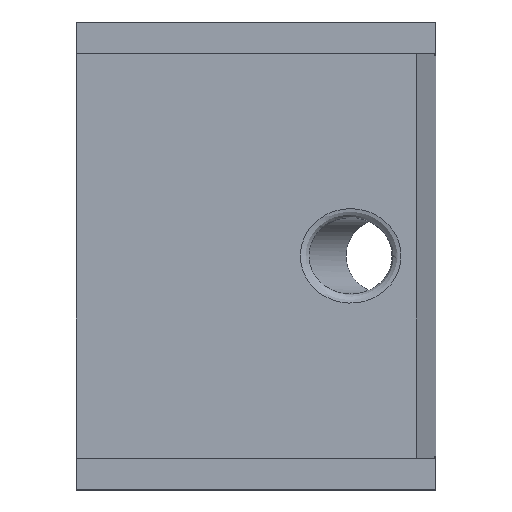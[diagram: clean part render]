
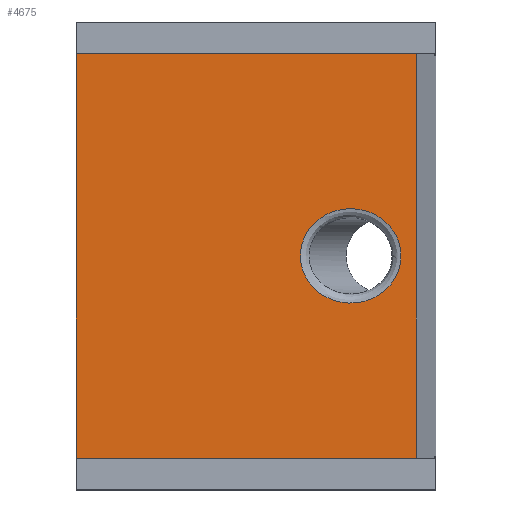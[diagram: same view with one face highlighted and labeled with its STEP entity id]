
A CAD part, top view. The second image highlights one B-rep face of the part: STEP entity #4675.
In plain terms, the highlighted planar face has unit normal (0, 0, 1).
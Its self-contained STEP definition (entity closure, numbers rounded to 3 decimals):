
#7 = LINE ( 'NONE', #4567, #5301 ) ;
#341 = CARTESIAN_POINT ( 'NONE',  ( 36.111, 10.5, 12. ) ) ;
#642 = DIRECTION ( 'NONE',  ( 0., -1., 0. ) ) ;
#704 = PLANE ( 'NONE',  #8969 ) ;
#938 = ORIENTED_EDGE ( 'NONE', *, *, #6987, .T. ) ;
#1512 = DIRECTION ( 'NONE',  ( -1., 0., 0. ) ) ;
#1530 = VECTOR ( 'NONE', #642, 1000. ) ;
#2386 = EDGE_LOOP ( 'NONE', ( #9019, #6944, #9219, #6426 ) ) ;
#2459 =( BOUNDED_CURVE ( )  B_SPLINE_CURVE ( 3, ( #5517, #3211, #6268, #3353, #3402, #341, #4060 ),
 .UNSPECIFIED., .T., .T. ) 
 B_SPLINE_CURVE_WITH_KNOTS ( ( 4, 3, 4 ),
 ( 0., 3.142, 6.283 ),
 .UNSPECIFIED. ) 
 CURVE ( )  GEOMETRIC_REPRESENTATION_ITEM ( )  RATIONAL_B_SPLINE_CURVE ( ( 1., 0.333, 0.333, 1., 0.333, 0.333, 1. ) ) 
 REPRESENTATION_ITEM ( '' )  );
#2612 = CARTESIAN_POINT ( 'NONE',  ( 0., -22.5, 12. ) ) ;
#2665 = CARTESIAN_POINT ( 'NONE',  ( 37.816, -22.5, 12. ) ) ;
#2695 = DIRECTION ( 'NONE',  ( 0., -1., 0. ) ) ;
#3069 = FACE_OUTER_BOUND ( 'NONE', #2386, .T. ) ;
#3211 = CARTESIAN_POINT ( 'NONE',  ( 36.111, -10.5, 12. ) ) ;
#3353 = CARTESIAN_POINT ( 'NONE',  ( 24.937, 0., 12. ) ) ;
#3382 = EDGE_LOOP ( 'NONE', ( #938 ) ) ;
#3402 = CARTESIAN_POINT ( 'NONE',  ( 24.937, 10.5, 12. ) ) ;
#4060 = CARTESIAN_POINT ( 'NONE',  ( 36.111, 0., 12. ) ) ;
#4331 = CARTESIAN_POINT ( 'NONE',  ( 0., 22.5, 12. ) ) ;
#4366 = LINE ( 'NONE', #9708, #4677 ) ;
#4464 = FACE_BOUND ( 'NONE', #3382, .T. ) ;
#4506 = CARTESIAN_POINT ( 'NONE',  ( 37.816, 22.5, 12. ) ) ;
#4567 = CARTESIAN_POINT ( 'NONE',  ( 0., 22.5, 12. ) ) ;
#4609 = CARTESIAN_POINT ( 'NONE',  ( 37.816, 22.5, 12. ) ) ;
#4631 = EDGE_CURVE ( 'NONE', #9217, #5783, #4366, .T. ) ;
#4675 = ADVANCED_FACE ( 'NONE', ( #4464, #3069 ), #704, .F. ) ;
#4677 = VECTOR ( 'NONE', #7414, 1000. ) ;
#5038 = LINE ( 'NONE', #4331, #8867 ) ;
#5161 = VERTEX_POINT ( 'NONE', #9052 ) ;
#5269 = DIRECTION ( 'NONE',  ( 1., 0., 0. ) ) ;
#5301 = VECTOR ( 'NONE', #5269, 1000. ) ;
#5517 = CARTESIAN_POINT ( 'NONE',  ( 36.111, 0., 12. ) ) ;
#5605 = EDGE_CURVE ( 'NONE', #9432, #6919, #7, .T. ) ;
#5783 = VERTEX_POINT ( 'NONE', #2665 ) ;
#6268 = CARTESIAN_POINT ( 'NONE',  ( 24.937, -10.5, 12. ) ) ;
#6408 = EDGE_CURVE ( 'NONE', #9432, #9217, #5038, .T. ) ;
#6426 = ORIENTED_EDGE ( 'NONE', *, *, #6408, .T. ) ;
#6891 = EDGE_CURVE ( 'NONE', #6919, #5783, #7553, .T. ) ;
#6919 = VERTEX_POINT ( 'NONE', #4609 ) ;
#6944 = ORIENTED_EDGE ( 'NONE', *, *, #6891, .F. ) ;
#6987 = EDGE_CURVE ( 'NONE', #5161, #5161, #2459, .T. ) ;
#7414 = DIRECTION ( 'NONE',  ( 1., 0., 0. ) ) ;
#7508 = DIRECTION ( 'NONE',  ( 0., 0., -1. ) ) ;
#7553 = LINE ( 'NONE', #4506, #1530 ) ;
#8363 = CARTESIAN_POINT ( 'NONE',  ( 0., 22.5, 12. ) ) ;
#8488 = CARTESIAN_POINT ( 'NONE',  ( 0., 22.5, 12. ) ) ;
#8867 = VECTOR ( 'NONE', #2695, 1000. ) ;
#8969 = AXIS2_PLACEMENT_3D ( 'NONE', #8363, #7508, #1512 ) ;
#9019 = ORIENTED_EDGE ( 'NONE', *, *, #4631, .T. ) ;
#9052 = CARTESIAN_POINT ( 'NONE',  ( 36.111, 0., 12. ) ) ;
#9217 = VERTEX_POINT ( 'NONE', #2612 ) ;
#9219 = ORIENTED_EDGE ( 'NONE', *, *, #5605, .F. ) ;
#9432 = VERTEX_POINT ( 'NONE', #8488 ) ;
#9708 = CARTESIAN_POINT ( 'NONE',  ( 0., -22.5, 12. ) ) ;
